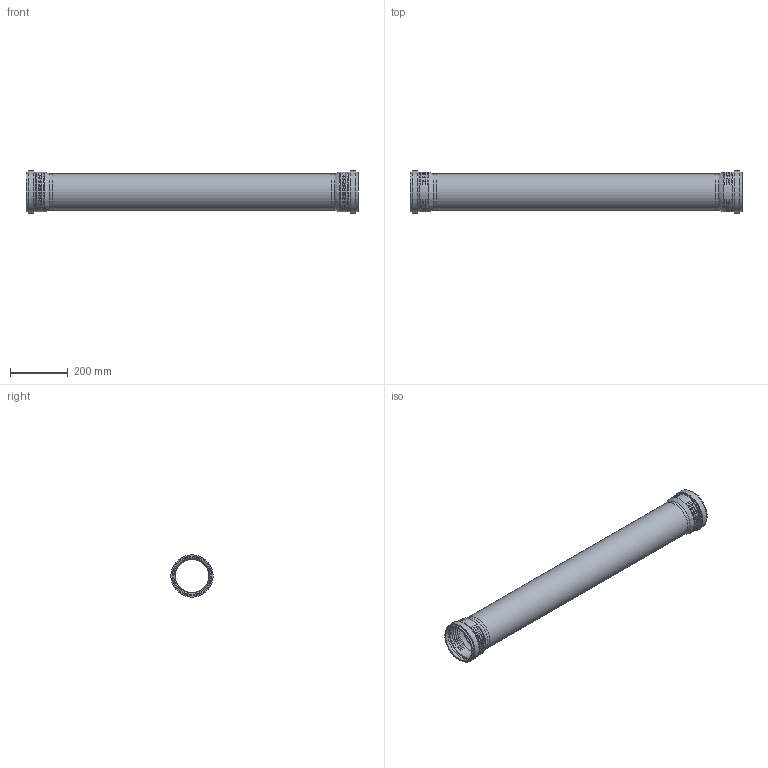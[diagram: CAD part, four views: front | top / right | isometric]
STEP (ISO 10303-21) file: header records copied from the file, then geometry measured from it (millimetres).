
FILE_DESCRIPTION(/* description */ (''),/* implementation_level */ '2;1');
FILE_NAME(/* name */ 'H:\Geberit-Teile\Export\PP_Rohr 2 Muffen_TEST\stp\393611.stp',/* time_stamp */ '2017-02-13T17:12:01+01:00',/* author */ ('seihe2'),/* organization */ (''),/* preprocessor_version */ 'ST-DEVELOPER v15.2',/* originating_system */ 'Autodesk Inventor 2014',/* authorisation */ '');
FILE_SCHEMA (('AUTOMOTIVE_DESIGN { 1 0 10303 214 3 1 1 }'));
Length unit declared in the file: millimetre
Products named in the file (1): 393611
Bounding box: 1147.8 x 146.35 x 146.35 mm (x, y, z)
Volume: 2228617.3 mm3; surface area: 930719.3 mm2
Topology: 3 solids, 3 shells, 70 faces, 152 edges, 106 vertices
Faces by surface type: torus 34, cylinder 18, plane 14, bspline 2, cone 2
Full cylindrical faces by diameter (mm): 115.2 x3, 125.2 x3, 126.2 x2, 129.2 x2, 135.2 x2, 137.75 x2, 138.2 x2, 146.35 x2
Entity records: 4532 total; most frequent: CARTESIAN_POINT 3113, ORIENTED_EDGE 236, DIRECTION 234, EDGE_LOOP 126, EDGE_CURVE 118, AXIS2_PLACEMENT_3D 117, VERTEX_POINT 104, STYLED_ITEM 73
